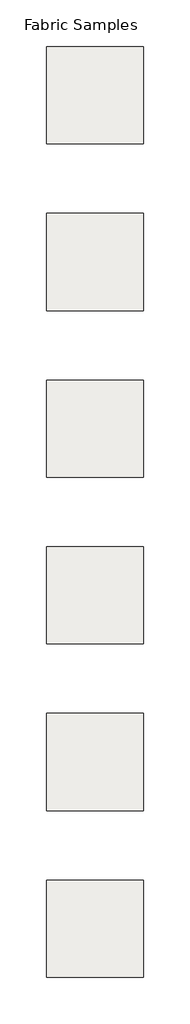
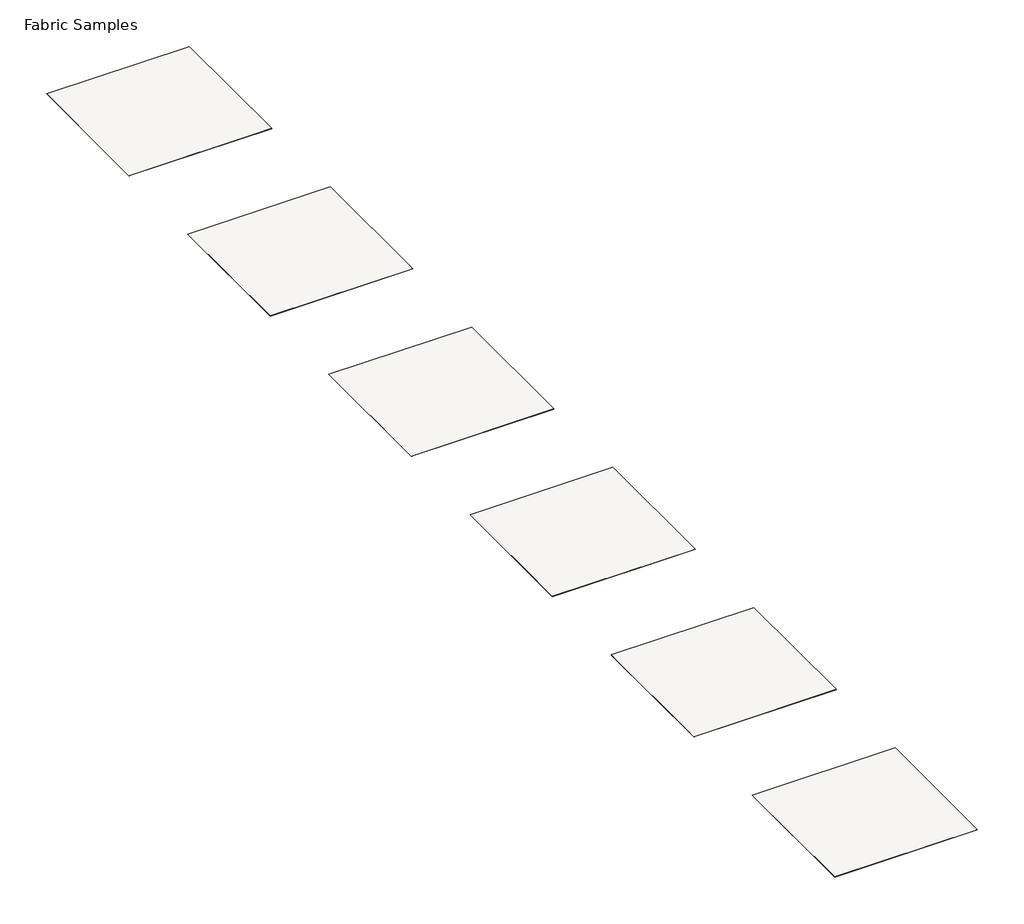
# One storey: 6 coverings.
"""IFC4 building model written with IfcOpenShell, lengths in millimetres."""

from ifc_helpers import new_model, si_unit, frame, origin, place, context, project, spatial, polyline, outline, extrude, element, save

model = new_model("IFC4")

# Units and contexts
model_context = context("Model", 3, world=origin())
ifc_project = project(units=[si_unit("LENGTHUNIT", "METRE", prefix="MILLI")], contexts=[model_context])

# Site, building, storey
site = spatial("IfcSite", under=ifc_project)
building = spatial("IfcBuilding", under=site)
storey = spatial("IfcBuildingStorey", under=building, Name="Fabric Samples", Elevation=0.0)

# Coverings
placement = place(None, origin())
element("IfcCovering", 1, ObjectType="CamiraFabrics_TxtlRllCvrngs_Kyoto_Tang_KOY01", at=placement, inside=storey, context=model_context, shape_type="SweptSolid", body=[
    extrude(outline(polyline([(515.5073044, 1029.1514654), (515.5073044, -370.8485346), (-884.4926956, -370.8485346), (-884.4926956, 1029.1514654), (515.5073044, 1029.1514654)])), frame((0.0, 0.0, -2.0), z_axis=(0.0, 0.0, 1.0), x_axis=(1.0, 0.0, 0.0)), (0.0, 0.0, 1.0), 2.0),
])
element("IfcCovering", 2, ObjectType="CamiraFabrics_TxtlRllCvrngs_Kyoto_Tokyo_KOY02", at=placement, inside=storey, context=model_context, shape_type="SweptSolid", body=[
    extrude(outline(polyline([(515.5073044, -1370.8485346), (515.5073044, -2770.8485346), (-884.4926956, -2770.8485346), (-884.4926956, -1370.8485346), (515.5073044, -1370.8485346)])), frame((0.0, 0.0, -2.0), z_axis=(0.0, 0.0, 1.0), x_axis=(1.0, 0.0, 0.0)), (0.0, 0.0, 1.0), 2.0),
])
element("IfcCovering", 3, ObjectType="CamiraFabrics_TxtlRllCvrngs_Kyoto_Kobe_KOY03", at=placement, inside=storey, context=model_context, shape_type="SweptSolid", body=[
    extrude(outline(polyline([(515.5073044, -3770.8485346), (515.5073044, -5170.8485346), (-884.4926956, -5170.8485346), (-884.4926956, -3770.8485346), (515.5073044, -3770.8485346)])), frame((0.0, 0.0, -2.0), z_axis=(0.0, 0.0, 1.0), x_axis=(1.0, 0.0, 0.0)), (0.0, 0.0, 1.0), 2.0),
])
element("IfcCovering", 4, ObjectType="CamiraFabrics_TxtlRllCvrngs_Kyoto_Ken_KOY04", at=placement, inside=storey, context=model_context, shape_type="SweptSolid", body=[
    extrude(outline(polyline([(515.5073044, -6170.8485346), (515.5073044, -7570.8485346), (-884.4926956, -7570.8485346), (-884.4926956, -6170.8485346), (515.5073044, -6170.8485346)])), frame((0.0, 0.0, -2.0), z_axis=(0.0, 0.0, 1.0), x_axis=(1.0, 0.0, 0.0)), (0.0, 0.0, 1.0), 2.0),
])
element("IfcCovering", 5, ObjectType="CamiraFabrics_TxtlRllCvrngs_Kyoto_Muso_KOY05", at=placement, inside=storey, context=model_context, shape_type="SweptSolid", body=[
    extrude(outline(polyline([(515.5073044, -8570.8485346), (515.5073044, -9970.8485346), (-884.4926956, -9970.8485346), (-884.4926956, -8570.8485346), (515.5073044, -8570.8485346)])), frame((0.0, 0.0, -2.0), z_axis=(0.0, 0.0, 1.0), x_axis=(1.0, 0.0, 0.0)), (0.0, 0.0, 1.0), 2.0),
])
element("IfcCovering", 6, ObjectType="CamiraFabrics_TxtlRllCvrngs_Kyoto_Osaka_KOY06", at=placement, inside=storey, context=model_context, shape_type="SweptSolid", body=[
    extrude(outline(polyline([(515.5073044, -10970.8485346), (515.5073044, -12370.8485346), (-884.4926956, -12370.8485346), (-884.4926956, -10970.8485346), (515.5073044, -10970.8485346)])), frame((0.0, 0.0, -2.0), z_axis=(0.0, 0.0, 1.0), x_axis=(1.0, 0.0, 0.0)), (0.0, 0.0, 1.0), 2.0),
])

save(model, "model.ifc")
